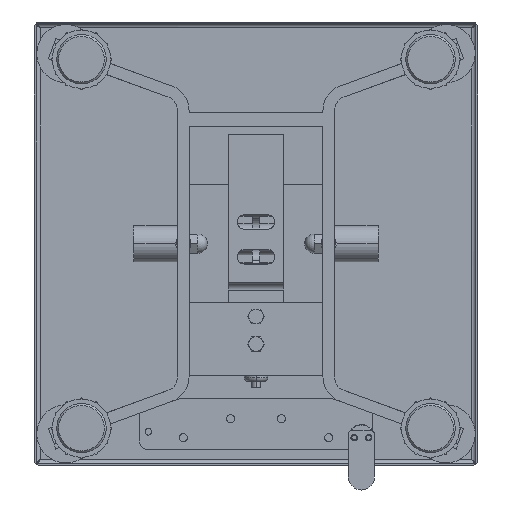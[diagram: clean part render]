
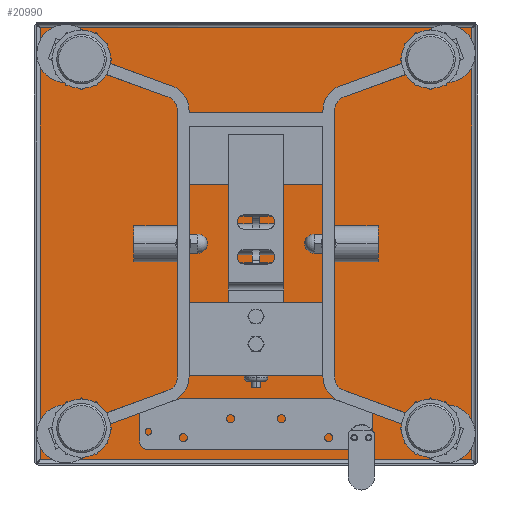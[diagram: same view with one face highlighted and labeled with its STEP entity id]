
A CAD part, front view. The second image highlights one B-rep face of the part: STEP entity #20990.
In plain terms, the highlighted planar face has unit normal (0, -1, 0).
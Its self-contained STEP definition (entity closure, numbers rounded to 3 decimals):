
#19471=DIRECTION('',(1.,0.,0.));
#19472=VECTOR('',#19471,296.9);
#19473=CARTESIAN_POINT('',(-148.45,62.5,148.45));
#19474=LINE('',#19473,#19472);
#19541=CARTESIAN_POINT('',(-148.45,62.5,148.45));
#19549=DIRECTION('',(0.,0.,1.));
#19550=VECTOR('',#19549,296.9);
#19551=CARTESIAN_POINT('',(-148.45,62.5,-148.45));
#19552=LINE('',#19551,#19550);
#19565=CARTESIAN_POINT('',(148.45,62.5,-148.45));
#19573=DIRECTION('',(0.,0.,-1.));
#19574=VECTOR('',#19573,296.9);
#19575=CARTESIAN_POINT('',(148.45,62.5,148.45));
#19576=LINE('',#19575,#19574);
#19714=DIRECTION('',(-1.,0.,0.));
#19715=VECTOR('',#19714,296.9);
#19716=CARTESIAN_POINT('',(148.45,62.5,-148.45));
#19717=LINE('',#19716,#19715);
#19786=CARTESIAN_POINT('',(130.719,62.5,-130.728));
#19787=DIRECTION('',(0.,1.,0.));
#19788=DIRECTION('',(-0.461,0.,0.887));
#19789=AXIS2_PLACEMENT_3D('',#19786,#19787,#19788);
#19791=CARTESIAN_POINT('',(130.719,62.5,-130.728));
#19792=DIRECTION('',(0.,1.,0.));
#19793=DIRECTION('',(0.461,0.,-0.887));
#19794=AXIS2_PLACEMENT_3D('',#19791,#19792,#19793);
#19908=CARTESIAN_POINT('',(-130.719,62.5,-130.728));
#19909=DIRECTION('',(0.,1.,0.));
#19910=DIRECTION('',(-0.461,0.,0.887));
#19911=AXIS2_PLACEMENT_3D('',#19908,#19909,#19910);
#19913=CARTESIAN_POINT('',(-130.719,62.5,-130.728));
#19914=DIRECTION('',(0.,1.,0.));
#19915=DIRECTION('',(0.461,0.,-0.887));
#19916=AXIS2_PLACEMENT_3D('',#19913,#19914,#19915);
#20030=CARTESIAN_POINT('',(130.719,62.5,130.728));
#20031=DIRECTION('',(0.,1.,0.));
#20032=DIRECTION('',(-0.461,0.,0.887));
#20033=AXIS2_PLACEMENT_3D('',#20030,#20031,#20032);
#20035=CARTESIAN_POINT('',(130.719,62.5,130.728));
#20036=DIRECTION('',(0.,1.,0.));
#20037=DIRECTION('',(0.461,0.,-0.887));
#20038=AXIS2_PLACEMENT_3D('',#20035,#20036,#20037);
#20152=CARTESIAN_POINT('',(-130.719,62.5,130.728));
#20153=DIRECTION('',(0.,1.,0.));
#20154=DIRECTION('',(-0.461,0.,0.887));
#20155=AXIS2_PLACEMENT_3D('',#20152,#20153,#20154);
#20157=CARTESIAN_POINT('',(-130.719,62.5,130.728));
#20158=DIRECTION('',(0.,1.,0.));
#20159=DIRECTION('',(0.461,0.,-0.887));
#20160=AXIS2_PLACEMENT_3D('',#20157,#20158,#20159);
#20296=CARTESIAN_POINT('',(-148.45,62.5,-148.45));
#20297=VERTEX_POINT('',#20296);
#20298=VERTEX_POINT('',#19541);
#20313=CARTESIAN_POINT('',(148.45,62.5,148.45));
#20314=VERTEX_POINT('',#20313);
#20315=VERTEX_POINT('',#19565);
#20461=CARTESIAN_POINT('',(123.481,62.5,-116.796));
#20462=CARTESIAN_POINT('',(137.957,62.5,-144.661));
#20463=VERTEX_POINT('',#20461);
#20464=VERTEX_POINT('',#20462);
#20465=CARTESIAN_POINT('',(-137.957,62.5,-116.796));
#20466=CARTESIAN_POINT('',(-123.481,62.5,-144.661));
#20467=VERTEX_POINT('',#20465);
#20468=VERTEX_POINT('',#20466);
#20469=CARTESIAN_POINT('',(123.481,62.5,144.661));
#20470=CARTESIAN_POINT('',(137.957,62.5,116.796));
#20471=VERTEX_POINT('',#20469);
#20472=VERTEX_POINT('',#20470);
#20473=CARTESIAN_POINT('',(-137.957,62.5,144.661));
#20474=CARTESIAN_POINT('',(-123.481,62.5,116.796));
#20475=VERTEX_POINT('',#20473);
#20476=VERTEX_POINT('',#20474);
#20953=CARTESIAN_POINT('',(0.,62.5,0.));
#20954=DIRECTION('',(0.,1.,0.));
#20955=DIRECTION('',(1.,0.,0.));
#20956=AXIS2_PLACEMENT_3D('',#20953,#20954,#20955);
#20957=PLANE('',#20956);
#20959=ORIENTED_EDGE('',*,*,#20958,.T.);
#20961=ORIENTED_EDGE('',*,*,#20960,.T.);
#20962=ORIENTED_EDGE('',*,*,#20938,.T.);
#20963=ORIENTED_EDGE('',*,*,#20706,.T.);
#20964=EDGE_LOOP('',(#20959,#20961,#20962,#20963));
#20965=FACE_OUTER_BOUND('',#20964,.F.);
#20967=ORIENTED_EDGE('',*,*,#20966,.F.);
#20969=ORIENTED_EDGE('',*,*,#20968,.F.);
#20970=EDGE_LOOP('',(#20967,#20969));
#20971=FACE_BOUND('',#20970,.F.);
#20973=ORIENTED_EDGE('',*,*,#20972,.F.);
#20975=ORIENTED_EDGE('',*,*,#20974,.F.);
#20976=EDGE_LOOP('',(#20973,#20975));
#20977=FACE_BOUND('',#20976,.F.);
#20979=ORIENTED_EDGE('',*,*,#20978,.F.);
#20981=ORIENTED_EDGE('',*,*,#20980,.F.);
#20982=EDGE_LOOP('',(#20979,#20981));
#20983=FACE_BOUND('',#20982,.F.);
#20985=ORIENTED_EDGE('',*,*,#20984,.F.);
#20987=ORIENTED_EDGE('',*,*,#20986,.F.);
#20988=EDGE_LOOP('',(#20985,#20987));
#20989=FACE_BOUND('',#20988,.F.);
#20990=ADVANCED_FACE('',(#20965,#20971,#20977,#20983,#20989),#20957,.F.);
#19790=CIRCLE('',#19789,15.7);
#19795=CIRCLE('',#19794,15.7);
#19912=CIRCLE('',#19911,15.7);
#19917=CIRCLE('',#19916,15.7);
#20034=CIRCLE('',#20033,15.7);
#20039=CIRCLE('',#20038,15.7);
#20156=CIRCLE('',#20155,15.7);
#20161=CIRCLE('',#20160,15.7);
#20706=EDGE_CURVE('',#20298,#20314,#19474,.T.);
#20938=EDGE_CURVE('',#20297,#20298,#19552,.T.);
#20958=EDGE_CURVE('',#20314,#20315,#19576,.T.);
#20960=EDGE_CURVE('',#20315,#20297,#19717,.T.);
#20966=EDGE_CURVE('',#20463,#20464,#19790,.T.);
#20968=EDGE_CURVE('',#20464,#20463,#19795,.T.);
#20972=EDGE_CURVE('',#20467,#20468,#19912,.T.);
#20974=EDGE_CURVE('',#20468,#20467,#19917,.T.);
#20978=EDGE_CURVE('',#20471,#20472,#20034,.T.);
#20980=EDGE_CURVE('',#20472,#20471,#20039,.T.);
#20984=EDGE_CURVE('',#20475,#20476,#20156,.T.);
#20986=EDGE_CURVE('',#20476,#20475,#20161,.T.);
